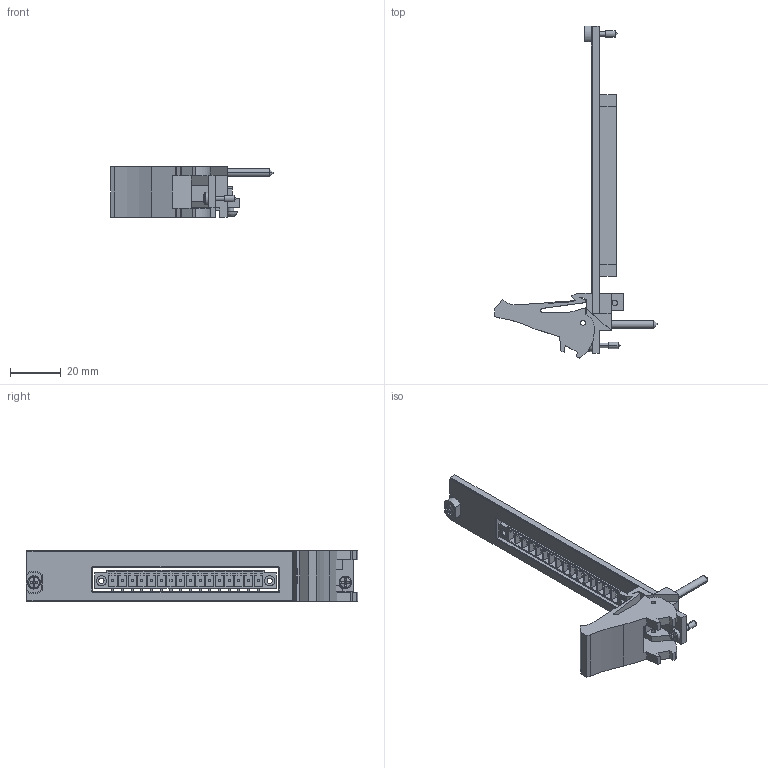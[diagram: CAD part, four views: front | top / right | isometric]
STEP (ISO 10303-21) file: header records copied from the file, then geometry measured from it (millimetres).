
FILE_DESCRIPTION((''),'2;1');
FILE_NAME('CU_PXI-2584','2009-09-17T',('jjorden'),(''),'PRO/ENGINEER BY PARAMETRIC TECHNOLOGY CORPORATION, 2006080','PRO/ENGINEER BY PARAMETRIC TECHNOLOGY CORPORATION, 2006080','');
FILE_SCHEMA(('CONFIG_CONTROL_DESIGN'));
Length unit declared in the file: inch
Products named in the file (1): CU_PXI-2584
Bounding box: 63.73 x 130.5 x 20.02 mm (x, y, z)
Volume: 15543.4 mm3; surface area: 15995 mm2
Topology: 2 solids, 2 shells, 720 faces, 1859 edges, 1203 vertices
Faces by surface type: plane 615, cylinder 71, cone 14, sphere 8, bspline 6, torus 6
Entity records: 21972 total; most frequent: CARTESIAN_POINT 4233, ORIENTED_EDGE 3702, DIRECTION 3471, EDGE_CURVE 1851, VECTOR 1605, LINE 1605, VERTEX_POINT 1222, AXIS2_PLACEMENT_3D 933
